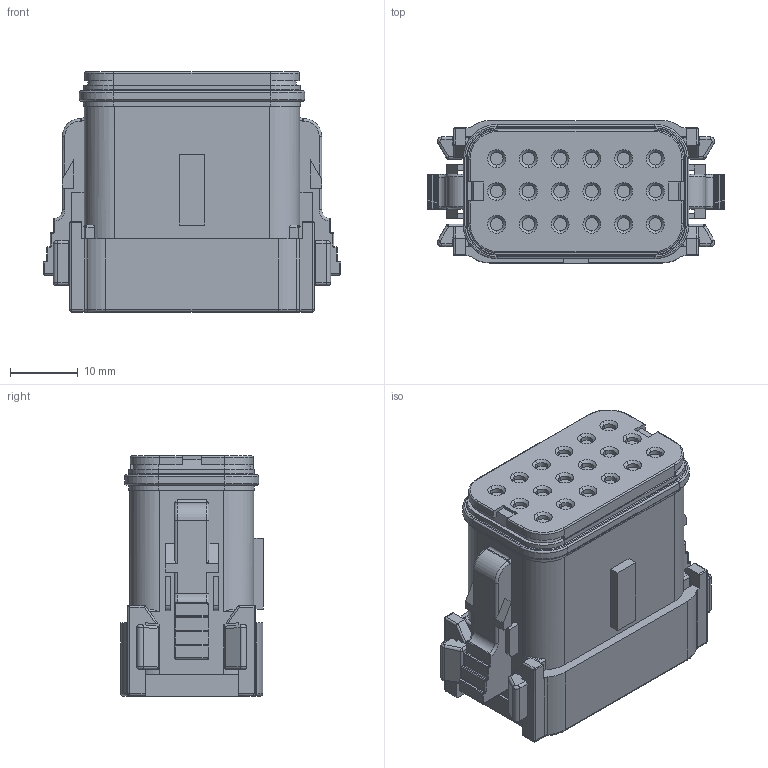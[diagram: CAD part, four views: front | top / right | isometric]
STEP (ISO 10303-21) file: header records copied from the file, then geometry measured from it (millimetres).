
FILE_DESCRIPTION((''),'2;1');
FILE_NAME('C-DT16-18SC-K004','2013-07-06T',('workeradm'),('Tyco Electronics Ltd.'),'PRO/ENGINEER BY PARAMETRIC TECHNOLOGY CORPORATION, 2011490','PRO/ENGINEER BY PARAMETRIC TECHNOLOGY CORPORATION, 2011490','');
FILE_SCHEMA(('AUTOMOTIVE_DESIGN { 1 0 10303 214 1 1 1 1 }'));
Length unit declared in the file: millimetre
Products named in the file (1): C-DT16-18SC-K004
Bounding box: 43.81 x 21.06 x 35.38 mm (x, y, z)
Volume: 21328.3 mm3; surface area: 8276.2 mm2
Topology: 1 solids, 1 shells, 1105 faces, 2714 edges, 1692 vertices
Faces by surface type: plane 535, cylinder 358, torus 88, bspline 64, cone 40, sphere 20
Entity records: 41553 total; most frequent: CARTESIAN_POINT 14782, DIRECTION 5624, ORIENTED_EDGE 5428, EDGE_CURVE 2714, AXIS2_PLACEMENT_3D 1949, VECTOR 1726, LINE 1726, VERTEX_POINT 1692
